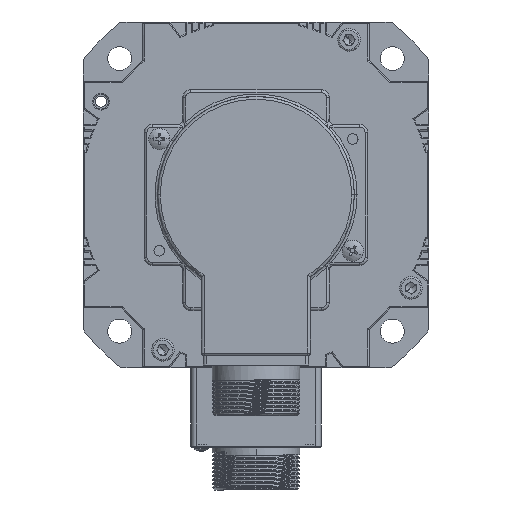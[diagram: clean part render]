
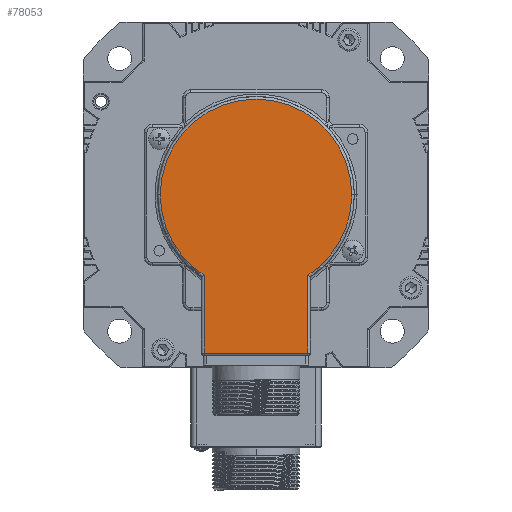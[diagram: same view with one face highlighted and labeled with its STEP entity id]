
A CAD part, front view. The second image highlights one B-rep face of the part: STEP entity #78053.
In plain terms, the highlighted planar face has unit normal (0, -1, 0) as drawn and (0, 0, -1) by its records, which use the part's own axes.
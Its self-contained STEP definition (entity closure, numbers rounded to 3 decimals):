
#3998 = ORIENTED_EDGE ( 'NONE', *, *, #66728, .T. ) ;
#4335 = EDGE_CURVE ( 'NONE', #17097, #64749, #71573, .T. ) ;
#5425 = CARTESIAN_POINT ( 'NONE',  ( 0., 0., -33. ) ) ;
#7528 = DIRECTION ( 'NONE',  ( 0., 1., 0. ) ) ;
#11317 = DIRECTION ( 'NONE',  ( 1., 0., 0. ) ) ;
#11879 = CIRCLE ( 'NONE', #76513, 36. ) ;
#12343 = EDGE_CURVE ( 'NONE', #26442, #17097, #34468, .T. ) ;
#13313 = LINE ( 'NONE', #76335, #15215 ) ;
#15162 = VECTOR ( 'NONE', #72627, 1000. ) ;
#15215 = VECTOR ( 'NONE', #11317, 1000. ) ;
#15817 = DIRECTION ( 'NONE',  ( -1., 0., 0. ) ) ;
#16347 = DIRECTION ( 'NONE',  ( 0., 0., -1. ) ) ;
#17097 = VERTEX_POINT ( 'NONE', #65760 ) ;
#17499 = VERTEX_POINT ( 'NONE', #23426 ) ;
#19202 = ORIENTED_EDGE ( 'NONE', *, *, #24637, .T. ) ;
#21580 = PLANE ( 'NONE',  #71012 ) ;
#22076 = ORIENTED_EDGE ( 'NONE', *, *, #12343, .T. ) ;
#22518 = AXIS2_PLACEMENT_3D ( 'NONE', #77779, #24366, #66403 ) ;
#23426 = CARTESIAN_POINT ( 'NONE',  ( -19.5, 30.261, -33. ) ) ;
#24366 = DIRECTION ( 'NONE',  ( 0., 0., -1. ) ) ;
#24559 = EDGE_LOOP ( 'NONE', ( #73731, #26522, #3998, #22076, #52376, #19202 ) ) ;
#24637 = EDGE_CURVE ( 'NONE', #64749, #17499, #11879, .T. ) ;
#25509 = EDGE_CURVE ( 'NONE', #17499, #49529, #76752, .T. ) ;
#25600 = CARTESIAN_POINT ( 'NONE',  ( -36., 0., -33. ) ) ;
#25810 = CARTESIAN_POINT ( 'NONE',  ( 19.5, 30.261, -33. ) ) ;
#26442 = VERTEX_POINT ( 'NONE', #25810 ) ;
#26522 = ORIENTED_EDGE ( 'NONE', *, *, #49389, .T. ) ;
#29921 = DIRECTION ( 'NONE',  ( -1., 0., 0. ) ) ;
#30542 = CARTESIAN_POINT ( 'NONE',  ( 19.5, 30.802, -33. ) ) ;
#34468 = CIRCLE ( 'NONE', #53657, 36. ) ;
#37263 = CARTESIAN_POINT ( 'NONE',  ( -19.5, 59.5, -33. ) ) ;
#39069 = VECTOR ( 'NONE', #7528, 1000. ) ;
#43028 = CARTESIAN_POINT ( 'NONE',  ( 0., 0., -33. ) ) ;
#47052 = VERTEX_POINT ( 'NONE', #56951 ) ;
#48800 = DIRECTION ( 'NONE',  ( 0., 0., -1. ) ) ;
#49389 = EDGE_CURVE ( 'NONE', #49529, #47052, #13313, .T. ) ;
#49529 = VERTEX_POINT ( 'NONE', #37263 ) ;
#52376 = ORIENTED_EDGE ( 'NONE', *, *, #4335, .T. ) ;
#53433 = FACE_OUTER_BOUND ( 'NONE', #24559, .T. ) ;
#53657 = AXIS2_PLACEMENT_3D ( 'NONE', #5425, #59817, #29921 ) ;
#54798 = DIRECTION ( 'NONE',  ( -1., 0., 0. ) ) ;
#56951 = CARTESIAN_POINT ( 'NONE',  ( 19.5, 59.5, -33. ) ) ;
#58342 = LINE ( 'NONE', #30542, #15162 ) ;
#59817 = DIRECTION ( 'NONE',  ( 0., 0., -1. ) ) ;
#63624 = CARTESIAN_POINT ( 'NONE',  ( 0., 0., -33. ) ) ;
#64749 = VERTEX_POINT ( 'NONE', #25600 ) ;
#65760 = CARTESIAN_POINT ( 'NONE',  ( 36., 0., -33. ) ) ;
#66403 = DIRECTION ( 'NONE',  ( -1., 0., 0. ) ) ;
#66728 = EDGE_CURVE ( 'NONE', #47052, #26442, #58342, .T. ) ;
#66967 = CARTESIAN_POINT ( 'NONE',  ( -19.5, 60.5, -33. ) ) ;
#71012 = AXIS2_PLACEMENT_3D ( 'NONE', #63624, #16347, #15817 ) ;
#71573 = CIRCLE ( 'NONE', #22518, 36. ) ;
#72627 = DIRECTION ( 'NONE',  ( 0., -1., 0. ) ) ;
#73731 = ORIENTED_EDGE ( 'NONE', *, *, #25509, .T. ) ;
#76335 = CARTESIAN_POINT ( 'NONE',  ( 20.5, 59.5, -33. ) ) ;
#76513 = AXIS2_PLACEMENT_3D ( 'NONE', #43028, #48800, #54798 ) ;
#76752 = LINE ( 'NONE', #66967, #39069 ) ;
#77779 = CARTESIAN_POINT ( 'NONE',  ( 0., 0., -33. ) ) ;
#78053 = ADVANCED_FACE ( 'NONE', ( #53433 ), #21580, .T. ) ;
